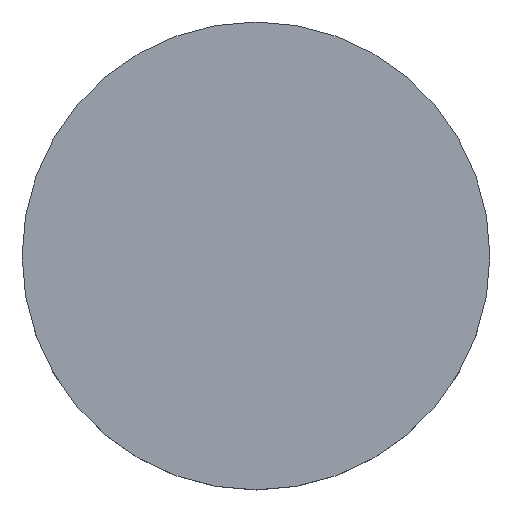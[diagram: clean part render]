
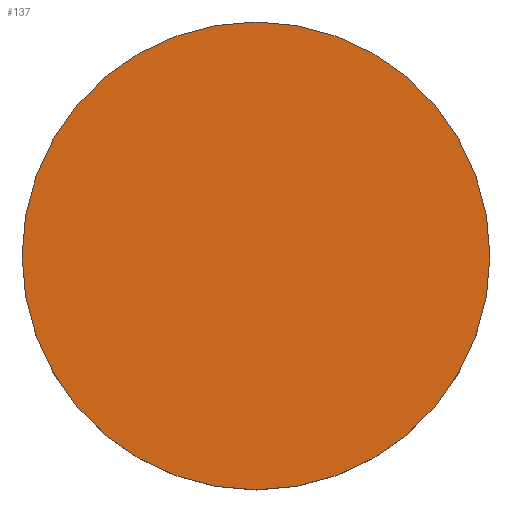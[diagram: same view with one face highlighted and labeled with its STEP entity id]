
A CAD part, top view. The second image highlights one B-rep face of the part: STEP entity #137.
In plain terms, the highlighted planar face has unit normal (0, 0, 1).
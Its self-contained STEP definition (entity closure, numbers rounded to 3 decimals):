
#72=CARTESIAN_POINT('Vertex',(132.044,46.972,20.)) ;
#86=CARTESIAN_POINT('Vertex',(1.423,46.972,20.)) ;
#89=CARTESIAN_POINT('Axis2P3D Location',(66.733,46.972,20.)) ;
#106=CARTESIAN_POINT('Axis2P3D Location',(66.733,46.972,20.)) ;
#128=CARTESIAN_POINT('Axis2P3D Location',(0.,0.,20.)) ;
#90=DIRECTION('Axis2P3D Direction',(0.,0.,1.)) ;
#107=DIRECTION('Axis2P3D Direction',(0.,0.,1.)) ;
#129=DIRECTION('Axis2P3D Direction',(0.,0.,1.)) ;
#130=DIRECTION('Axis2P3D XDirection',(1.,0.,0.)) ;
#91=AXIS2_PLACEMENT_3D('Circle Axis2P3D',#89,#90,$) ;
#108=AXIS2_PLACEMENT_3D('Circle Axis2P3D',#106,#107,$) ;
#131=AXIS2_PLACEMENT_3D('Plane Axis2P3D',#128,#129,#130) ;
#134=ORIENTED_EDGE('',*,*,#93,.T.) ;
#135=ORIENTED_EDGE('',*,*,#110,.T.) ;
#137=ADVANCED_FACE('Hauptk\X2\00F6\X0\rper',(#136),#132,.T.) ;
#92=CIRCLE('generated circle',#91,65.31) ;
#109=CIRCLE('generated circle',#108,65.31) ;
#93=EDGE_CURVE('',#73,#87,#92,.T.) ;
#110=EDGE_CURVE('',#87,#73,#109,.T.) ;
#133=EDGE_LOOP('',(#134,#135)) ;
#136=FACE_OUTER_BOUND('',#133,.T.) ;
#132=PLANE('Plane',#131) ;
#73=VERTEX_POINT('',#72) ;
#87=VERTEX_POINT('',#86) ;
